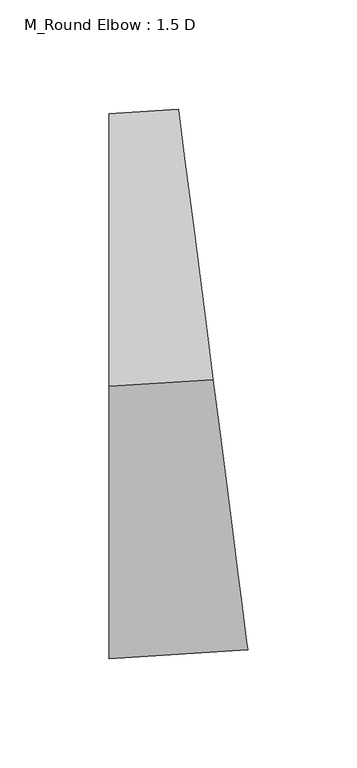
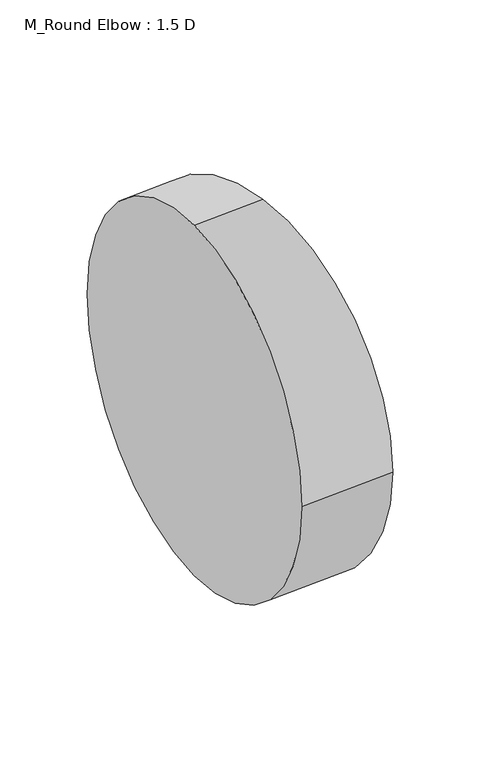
"""IFC4 building model written with IfcOpenShell, lengths in millimetres: duct fitting geometry, M_Round Elbow : 1.5 D."""

import ifcopenshell
import ifcopenshell.guid

model = None  # the IFC model being written
_history = None  # IfcOwnerHistory: only IFC2X3 demands one
_inside = {}  # id of a spatial element -> (the spatial element, [elements in it])
_under = {}  # id of a project, library or spatial element -> (it, [spatial elements below it])
_declared = {}  # id of a project -> (the project, [libraries it declares])
_typed = {}  # id of a type object -> (the type object, [elements of that type])
_made_of = {}  # id of a material, layer set ... -> (it, [elements and type objects made of it])


def new_model(schema):
    """Start an empty IFC model of exactly this schema.

    Asked for "IFC4X3", IfcOpenShell would pick the latest addendum, in which some entities
    have other attributes; the version numbers below select the first issue.
    IFC2X3 requires an IfcOwnerHistory on every rooted entity: one is made here for all.
    """
    global model, _history
    if schema == "IFC4X3":
        model = ifcopenshell.file(schema_version=(4, 3, 0, 0))
    else:
        model = ifcopenshell.file(schema=schema)
    _inside.clear()
    _under.clear()
    _declared.clear()
    _typed.clear()
    _made_of.clear()
    _history = None
    if model.schema == "IFC2X3":
        org = make("IfcOrganization", Name="unknown")
        user = make(
            "IfcPersonAndOrganization",
            ThePerson=make("IfcPerson", FamilyName="unknown"),
            TheOrganization=org,
        )
        app = make(
            "IfcApplication",
            ApplicationDeveloper=org,
            Version="unknown",
            ApplicationFullName="unknown",
            ApplicationIdentifier="unknown",
        )
        _history = make(
            "IfcOwnerHistory",
            OwningUser=user,
            OwningApplication=app,
            ChangeAction="ADDED",
            CreationDate=0,
        )
    return model


def make(cls, **values):
    """One entity of the class cls with the attributes given. An attribute that is None is left unset."""
    return model.create_entity(
        cls, **{name: value for name, value in values.items() if value is not None}
    )


def rooted(cls, **values):
    """An entity with a GlobalId (a new one), such as an element, a storey or a relation."""
    return make(cls, GlobalId=ifcopenshell.guid.new(), OwnerHistory=_history, **values)


def si_unit(unit_type, name, prefix=None):
    """IfcSIUnit, for example si_unit("LENGTHUNIT", "METRE", prefix="MILLI")."""
    return make("IfcSIUnit", UnitType=unit_type, Prefix=prefix, Name=name)


def assignment(units):
    """IfcUnitAssignment: the units of a project."""
    return None if units is None else make("IfcUnitAssignment", Units=units)


def point(xyz):
    """IfcCartesianPoint."""
    return None if xyz is None else make("IfcCartesianPoint", Coordinates=xyz)


def direction(xyz):
    """IfcDirection."""
    return None if xyz is None else make("IfcDirection", DirectionRatios=xyz)


def frame(location, z_axis=None, x_axis=None):
    """IfcAxis2Placement3D, a coordinate frame: its origin and axes. An axis left out is left unset."""
    return make(
        "IfcAxis2Placement3D",
        Location=point(location),
        Axis=direction(z_axis),
        RefDirection=direction(x_axis),
    )


def origin():
    """The frame at (0, 0, 0) with its axes left unset."""
    return frame((0.0, 0.0, 0.0))


def place(relative_to, where):
    """IfcLocalPlacement: puts the frame where relative to a parent placement (None: the world)."""
    return make(
        "IfcLocalPlacement", PlacementRelTo=relative_to, RelativePlacement=where
    )


def context(
    kind, dimensions, precision=None, world=None, true_north=None, identifier=None
):
    """IfcGeometricRepresentationContext, for example the 3D "Model" context."""
    return make(
        "IfcGeometricRepresentationContext",
        ContextIdentifier=identifier,
        ContextType=kind,
        CoordinateSpaceDimension=dimensions,
        Precision=precision,
        WorldCoordinateSystem=world,
        TrueNorth=true_north,
    )


def project(units=None, contexts=None):
    """IfcProject with its units and contexts."""
    return rooted(
        "IfcProject",
        Name="project",
        RepresentationContexts=contexts,
        UnitsInContext=assignment(units),
    )


def spatial(cls, under=None, at=None, **own):
    """A site, building, storey or space (cls), placed at a placement, below another one or the project."""
    s = rooted(cls, ObjectPlacement=at, **own)
    if under is not None:
        _under.setdefault(under.id(), (under, []))[1].append(s)
    return s


def circle_curve(where, radius):
    """IfcCircle in the frame where."""
    return make("IfcCircle", Position=where, Radius=radius)


def ellipse_curve(where, semi_axis1, semi_axis2):
    """IfcEllipse in the frame where."""
    return make(
        "IfcEllipse", Position=where, SemiAxis1=semi_axis1, SemiAxis2=semi_axis2
    )


def trimmed(basis, trim1, trim2, sense, master):
    """IfcTrimmedCurve: the piece of a basis curve between two trims."""
    return make(
        "IfcTrimmedCurve",
        BasisCurve=basis,
        Trim1=trim1,
        Trim2=trim2,
        SenseAgreement=sense,
        MasterRepresentation=master,
    )


def shape(context_of_items, identifier, shape_type, items):
    """IfcShapeRepresentation: the items that make up one representation, for example the "Body"."""
    return make(
        "IfcShapeRepresentation",
        ContextOfItems=context_of_items,
        RepresentationIdentifier=identifier,
        RepresentationType=shape_type,
        Items=items,
    )


def source(mapping_origin, context_of_items, identifier, shape_type, items):
    """IfcRepresentationMap: a shape defined once, which mapped items show again and again."""
    return make(
        "IfcRepresentationMap",
        MappingOrigin=mapping_origin,
        MappedRepresentation=shape(context_of_items, identifier, shape_type, items),
    )


def transform(
    local_origin,
    x_axis=None,
    y_axis=None,
    z_axis=None,
    scale=None,
    scale2=None,
    scale3=None,
    uniform=True,
):
    """IfcCartesianTransformationOperator3D, or its non-uniform kind. x_axis, y_axis, z_axis: its Axis1, 2, 3."""
    if uniform:
        return make(
            "IfcCartesianTransformationOperator3D",
            Axis1=direction(x_axis),
            Axis2=direction(y_axis),
            LocalOrigin=point(local_origin),
            Scale=scale,
            Axis3=direction(z_axis),
        )
    return make(
        "IfcCartesianTransformationOperator3DnonUniform",
        Axis1=direction(x_axis),
        Axis2=direction(y_axis),
        LocalOrigin=point(local_origin),
        Scale=scale,
        Axis3=direction(z_axis),
        Scale2=scale2,
        Scale3=scale3,
    )


def mapped(mapping_source, mapping_target):
    """IfcMappedItem: shows the shape of a source again, moved by a transform."""
    return make(
        "IfcMappedItem", MappingSource=mapping_source, MappingTarget=mapping_target
    )


def made_of(thing, what):
    """Note that an element or type object is made of a material, layer set ...; save() writes the relation."""
    if what is not None:
        _made_of.setdefault(what.id(), (what, []))[1].append(thing)
    return thing


def element(
    cls,
    number,
    at=None,
    inside=None,
    cuts=None,
    type_object=None,
    material=None,
    context=None,
    identifier="Body",
    shape_type=None,
    held_by="IfcProductDefinitionShape",
    body=None,
    shapes=None,
    **own,
):
    """One element of the class cls, such as IfcWall. Its Tag is "e" and its number.

    at: its placement. inside: the storey or other place that contains it. cuts: it is an
    opening in that element (IfcRelVoidsElement). A single representation is given by context,
    identifier, shape_type and body (its items); several are given by shapes. held_by: the class
    of the entity that holds the representations. save() writes the other relations.
    """
    e = rooted(cls, Tag="e%d" % number, ObjectPlacement=at, **own)
    if body is not None:
        shapes = [shape(context, identifier, shape_type, body)]
    if shapes is not None:
        e.Representation = make(held_by, Representations=shapes)
    if inside is not None:
        _inside.setdefault(inside.id(), (inside, []))[1].append(e)
    if cuts is not None:
        rooted(
            "IfcRelVoidsElement", RelatingBuildingElement=cuts, RelatedOpeningElement=e
        )
    if type_object is not None:
        _typed.setdefault(type_object.id(), (type_object, []))[1].append(e)
    return made_of(e, material)


def aggregate(whole, parts):
    """IfcRelAggregates: a whole, such as a stair, and the parts it consists of."""
    return rooted("IfcRelAggregates", RelatingObject=whole, RelatedObjects=parts)


def save(model, path):
    """Write the relations noted so far, then the file.

    IfcRelAggregates (storeys below a building ...), IfcRelContainedInSpatialStructure (elements
    in a storey), IfcRelDefinesByType, IfcRelAssociatesMaterial and IfcRelDeclares: one each for
    every whole, place, type object, material and project.
    """
    for whole, parts in _under.values():
        aggregate(whole, parts)
    for where, things in _inside.values():
        rooted(
            "IfcRelContainedInSpatialStructure",
            RelatedElements=things,
            RelatingStructure=where,
        )
    for kind, things in _typed.values():
        rooted("IfcRelDefinesByType", RelatedObjects=things, RelatingType=kind)
    for what, things in _made_of.values():
        rooted("IfcRelAssociatesMaterial", RelatedObjects=things, RelatingMaterial=what)
    for by, libraries in _declared.values():
        rooted("IfcRelDeclares", RelatingContext=by, RelatedDefinitions=libraries)
    model.write(path)


def plane_surface(at):
    """IfcPlane: the flat surface through the origin of the frame at, square to its z axis."""
    return make("IfcPlane", Position=at)


def revolved_surface(curve, axis_point, axis_direction):
    """IfcSurfaceOfRevolution: the curve turned about the line through axis_point along axis_direction."""
    return make(
        "IfcSurfaceOfRevolution",
        SweptCurve=make("IfcArbitraryOpenProfileDef", ProfileType="CURVE", Curve=curve),
        AxisPosition=make("IfcAxis1Placement", Location=point(axis_point), Axis=direction(axis_direction)),
    )


def advanced_brep(points, edges, surfaces, faces):
    """IfcAdvancedBrep: a solid bounded by faces that lie on surfaces and meet in shared edges.

    An edge is (start, end): straight between two places in points (the first is 0);
    or (start, end, curve); or (start, end, curve, False) where it runs against its curve.
    A face is (place in surfaces, loops), or (place, loops, False) where it looks against
    its surface's normal. A loop lists edges by number (the first is 1), with a minus sign
    where the edge is run from its end to its start. The first loop is the outer one.
    """
    corners = [point(p) for p in points]
    vertices = [make("IfcVertexPoint", VertexGeometry=c) for c in corners]
    made = []
    for start, end, *more in edges:
        made.append(
            make(
                "IfcEdgeCurve",
                EdgeStart=vertices[start],
                EdgeEnd=vertices[end],
                EdgeGeometry=more[0] if more else make("IfcPolyline", Points=[corners[start], corners[end]]),
                SameSense=more[1] if len(more) > 1 else True,
            )
        )
    hull = []
    for where, loops, *sense in faces:
        bounds = []
        for j, loop in enumerate(loops):
            ring = [make("IfcOrientedEdge", EdgeElement=made[abs(k) - 1], Orientation=k > 0) for k in loop]
            bounds.append(
                make(
                    "IfcFaceOuterBound" if j == 0 else "IfcFaceBound",
                    Bound=make("IfcEdgeLoop", EdgeList=ring),
                    Orientation=True,
                )
            )
        hull.append(make("IfcAdvancedFace", Bounds=bounds, FaceSurface=surfaces[where], SameSense=sense[0] if sense else True))
    return make("IfcAdvancedBrep", Outer=make("IfcClosedShell", CfsFaces=hull))


def m_round_elbow_1_5_d_30a58f77(model_context):
    return source(origin(), model_context, "Body", "AdvancedBrep", [
        advanced_brep(
        [(-24.0055954, 0.0, 125.0), (-24.0055954, 125.0, 0.0), (-24.0055954, 0.0, -125.0), (-24.0055954, -125.0, 0.0), (23.8096528, 3.0608893, 125.0), (39.7480689, -120.9188142, 0.0), (23.8096528, 3.0608893, -125.0), (7.8712367, 127.0405929, 0.0)],
        [
            (0, 1, circle_curve(frame((-24.0055954, 0.0, 0.0), z_axis=(-1.0, 0.0, 0.0), x_axis=(0.0, 1.0, 0.0)), 125.0)),
            (1, 2, circle_curve(frame((-24.0055954, 0.0, 0.0), z_axis=(-1.0, 0.0, 0.0), x_axis=(0.0, 1.0, 0.0)), 125.0)),
            (2, 3, circle_curve(frame((-24.0055954, 0.0, 0.0), z_axis=(-1.0, 0.0, 0.0), x_axis=(0.0, 1.0, 0.0)), 125.0)),
            (3, 0, circle_curve(frame((-24.0055954, 0.0, 0.0), z_axis=(-1.0, 0.0, 0.0), x_axis=(0.0, 1.0, 0.0)), 125.0)),
            (4, 5, circle_curve(frame((23.8096528, 3.0608893, 0.0), z_axis=(0.9918376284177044, 0.1275073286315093, 0.0), x_axis=(-0.1275073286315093, 0.9918376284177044, 0.0)), 125.0)),
            (5, 6, circle_curve(frame((23.8096528, 3.0608893, 0.0), z_axis=(0.9918376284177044, 0.1275073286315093, 0.0), x_axis=(-0.1275073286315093, 0.9918376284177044, 0.0)), 125.0)),
            (6, 7, circle_curve(frame((23.8096528, 3.0608893, 0.0), z_axis=(0.9918376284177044, 0.1275073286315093, 0.0), x_axis=(-0.1275073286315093, 0.9918376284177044, 0.0)), 125.0)),
            (7, 4, circle_curve(frame((23.8096528, 3.0608893, 0.0), z_axis=(0.9918376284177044, 0.1275073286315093, 0.0), x_axis=(-0.1275073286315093, 0.9918376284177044, 0.0)), 125.0)),
            (7, 1, circle_curve(frame((-24.0055954, 375.0, 0.0), z_axis=(0.0, 0.0, -1.0), x_axis=(0.0, -1.0, 0.0)), 250.0)),
            (0, 4, circle_curve(frame((-24.0055954, 375.0, 125.0), z_axis=(0.0, 0.0, 1.0), x_axis=(0.0, -1.0, 0.0)), 375.0)),
            (6, 2, circle_curve(frame((-24.0055954, 375.0, -125.0), z_axis=(0.0, 0.0, -1.0), x_axis=(0.0, -1.0, 0.0)), 375.0)),
            (5, 3, circle_curve(frame((-24.0055954, 375.0, 0.0), z_axis=(0.0, 0.0, -1.0), x_axis=(0.0, -1.0, 0.0)), 500.0)),
        ],
        [
            plane_surface(frame((-24.0055954, 0.0, 0.0), z_axis=(-1.0, 0.0, 0.0), x_axis=(0.0, 0.0, 1.0))),
            plane_surface(frame((23.8096528, 3.0608893, 0.0), z_axis=(0.9918376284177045, 0.12750732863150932, 0.0), x_axis=(0.0, 0.0, 1.0))),
            revolved_surface(trimmed(ellipse_curve(frame((-24.0055954, 0.0, 0.0), z_axis=(-1.0, 0.0, 0.0), x_axis=(0.0, 1.0, 0.0)), 125.0, 125.0), [point((-24.0055954, 0.0, 125.0))], [point((-24.0055954, 125.0, 0.0))], True, "CARTESIAN"), (-24.0055954, 375.0, 0.0), (0.0, 0.0, 1.0)),
            revolved_surface(trimmed(ellipse_curve(frame((-24.0055954, 0.0, 0.0), z_axis=(-1.0, 0.0, 0.0), x_axis=(0.0, 1.0, 0.0)), 125.0, 125.0), [point((-24.0055954, 125.0, 0.0))], [point((-24.0055954, 0.0, -125.0))], True, "CARTESIAN"), (-24.0055954, 375.0, 0.0), (0.0, 0.0, 1.0)),
            revolved_surface(trimmed(ellipse_curve(frame((-24.0055954, 0.0, 0.0), z_axis=(-1.0, 0.0, 0.0), x_axis=(0.0, 1.0, 0.0)), 125.0, 125.0), [point((-24.0055954, 0.0, -125.0))], [point((-24.0055954, -125.0, 0.0))], True, "CARTESIAN"), (-24.0055954, 375.0, 0.0), (0.0, 0.0, 1.0)),
            revolved_surface(trimmed(ellipse_curve(frame((-24.0055954, 0.0, 0.0), z_axis=(-1.0, 0.0, 0.0), x_axis=(0.0, 1.0, 0.0)), 125.0, 125.0), [point((-24.0055954, -125.0, 0.0))], [point((-24.0055954, 0.0, 125.0))], True, "CARTESIAN"), (-24.0055954, 375.0, 0.0), (0.0, 0.0, 1.0)),
        ],
        [
            (0, [[1, 2, 3, 4]]),
            (1, [[5, 6, 7, 8]]),
            (2, [[9, -1, 10, -8]]),
            (3, [[11, -2, -9, -7]]),
            (4, [[12, -3, -11, -6]]),
            (5, [[-10, -4, -12, -5]]),
        ],
    ),
        advanced_brep(
        [(-24.0055954, 0.0, 125.0), (-24.0055954, 125.0, 0.0), (-24.0055954, 0.0, -125.0), (-24.0055954, -125.0, 0.0), (23.8096528, 3.0608893, 125.0), (39.7480689, -120.9188142, 0.0), (23.8096528, 3.0608893, -125.0), (7.8712367, 127.0405929, 0.0)],
        [
            (0, 1, circle_curve(frame((-24.0055954, 0.0, 0.0), z_axis=(-1.0, 0.0, 0.0), x_axis=(0.0, 1.0, 0.0)), 125.0)),
            (1, 2, circle_curve(frame((-24.0055954, 0.0, 0.0), z_axis=(-1.0, 0.0, 0.0), x_axis=(0.0, 1.0, 0.0)), 125.0)),
            (2, 3, circle_curve(frame((-24.0055954, 0.0, 0.0), z_axis=(-1.0, 0.0, 0.0), x_axis=(0.0, 1.0, 0.0)), 125.0)),
            (3, 0, circle_curve(frame((-24.0055954, 0.0, 0.0), z_axis=(-1.0, 0.0, 0.0), x_axis=(0.0, 1.0, 0.0)), 125.0)),
            (4, 5, circle_curve(frame((23.8096528, 3.0608893, 0.0), z_axis=(0.9918376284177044, 0.1275073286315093, 0.0), x_axis=(-0.1275073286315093, 0.9918376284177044, 0.0)), 125.0)),
            (5, 6, circle_curve(frame((23.8096528, 3.0608893, 0.0), z_axis=(0.9918376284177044, 0.1275073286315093, 0.0), x_axis=(-0.1275073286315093, 0.9918376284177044, 0.0)), 125.0)),
            (6, 7, circle_curve(frame((23.8096528, 3.0608893, 0.0), z_axis=(0.9918376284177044, 0.1275073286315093, 0.0), x_axis=(-0.1275073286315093, 0.9918376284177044, 0.0)), 125.0)),
            (7, 4, circle_curve(frame((23.8096528, 3.0608893, 0.0), z_axis=(0.9918376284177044, 0.1275073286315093, 0.0), x_axis=(-0.1275073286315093, 0.9918376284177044, 0.0)), 125.0)),
            (7, 1, circle_curve(frame((-24.0055954, 375.0, 0.0), z_axis=(0.0, 0.0, -1.0), x_axis=(0.0, -1.0, 0.0)), 250.0)),
            (0, 4, circle_curve(frame((-24.0055954, 375.0, 125.0), z_axis=(0.0, 0.0, 1.0), x_axis=(0.0, -1.0, 0.0)), 375.0)),
            (6, 2, circle_curve(frame((-24.0055954, 375.0, -125.0), z_axis=(0.0, 0.0, -1.0), x_axis=(0.0, -1.0, 0.0)), 375.0)),
            (5, 3, circle_curve(frame((-24.0055954, 375.0, 0.0), z_axis=(0.0, 0.0, -1.0), x_axis=(0.0, -1.0, 0.0)), 500.0)),
        ],
        [
            plane_surface(frame((-24.0055954, 0.0, 0.0), z_axis=(-1.0, 0.0, 0.0), x_axis=(0.0, 0.0, 1.0))),
            plane_surface(frame((23.8096528, 3.0608893, 0.0), z_axis=(0.9918376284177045, 0.12750732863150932, 0.0), x_axis=(0.0, 0.0, 1.0))),
            revolved_surface(trimmed(ellipse_curve(frame((-24.0055954, 0.0, 0.0), z_axis=(-1.0, 0.0, 0.0), x_axis=(0.0, 1.0, 0.0)), 125.0, 125.0), [point((-24.0055954, 0.0, 125.0))], [point((-24.0055954, 125.0, 0.0))], True, "CARTESIAN"), (-24.0055954, 375.0, 0.0), (0.0, 0.0, 1.0)),
            revolved_surface(trimmed(ellipse_curve(frame((-24.0055954, 0.0, 0.0), z_axis=(-1.0, 0.0, 0.0), x_axis=(0.0, 1.0, 0.0)), 125.0, 125.0), [point((-24.0055954, 125.0, 0.0))], [point((-24.0055954, 0.0, -125.0))], True, "CARTESIAN"), (-24.0055954, 375.0, 0.0), (0.0, 0.0, 1.0)),
            revolved_surface(trimmed(ellipse_curve(frame((-24.0055954, 0.0, 0.0), z_axis=(-1.0, 0.0, 0.0), x_axis=(0.0, 1.0, 0.0)), 125.0, 125.0), [point((-24.0055954, 0.0, -125.0))], [point((-24.0055954, -125.0, 0.0))], True, "CARTESIAN"), (-24.0055954, 375.0, 0.0), (0.0, 0.0, 1.0)),
            revolved_surface(trimmed(ellipse_curve(frame((-24.0055954, 0.0, 0.0), z_axis=(-1.0, 0.0, 0.0), x_axis=(0.0, 1.0, 0.0)), 125.0, 125.0), [point((-24.0055954, -125.0, 0.0))], [point((-24.0055954, 0.0, 125.0))], True, "CARTESIAN"), (-24.0055954, 375.0, 0.0), (0.0, 0.0, 1.0)),
        ],
        [
            (0, [[1, 2, 3, 4]]),
            (1, [[5, 6, 7, 8]]),
            (2, [[9, -1, 10, -8]]),
            (3, [[11, -2, -9, -7]]),
            (4, [[12, -3, -11, -6]]),
            (5, [[-10, -4, -12, -5]]),
        ],
    ),
        advanced_brep(
        [(-24.0055954, 0.0, 125.0), (-24.0055954, 125.0, 0.0), (-24.0055954, 0.0, -125.0), (-24.0055954, -125.0, 0.0), (23.8096528, 3.0608893, 125.0), (39.7480689, -120.9188142, 0.0), (23.8096528, 3.0608893, -125.0), (7.8712367, 127.0405929, 0.0)],
        [
            (0, 1, circle_curve(frame((-24.0055954, 0.0, 0.0), z_axis=(-1.0, 0.0, 0.0), x_axis=(0.0, 1.0, 0.0)), 125.0)),
            (1, 2, circle_curve(frame((-24.0055954, 0.0, 0.0), z_axis=(-1.0, 0.0, 0.0), x_axis=(0.0, 1.0, 0.0)), 125.0)),
            (2, 3, circle_curve(frame((-24.0055954, 0.0, 0.0), z_axis=(-1.0, 0.0, 0.0), x_axis=(0.0, 1.0, 0.0)), 125.0)),
            (3, 0, circle_curve(frame((-24.0055954, 0.0, 0.0), z_axis=(-1.0, 0.0, 0.0), x_axis=(0.0, 1.0, 0.0)), 125.0)),
            (4, 5, circle_curve(frame((23.8096528, 3.0608893, 0.0), z_axis=(0.9918376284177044, 0.1275073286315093, 0.0), x_axis=(-0.1275073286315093, 0.9918376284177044, 0.0)), 125.0)),
            (5, 6, circle_curve(frame((23.8096528, 3.0608893, 0.0), z_axis=(0.9918376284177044, 0.1275073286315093, 0.0), x_axis=(-0.1275073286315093, 0.9918376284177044, 0.0)), 125.0)),
            (6, 7, circle_curve(frame((23.8096528, 3.0608893, 0.0), z_axis=(0.9918376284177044, 0.1275073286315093, 0.0), x_axis=(-0.1275073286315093, 0.9918376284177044, 0.0)), 125.0)),
            (7, 4, circle_curve(frame((23.8096528, 3.0608893, 0.0), z_axis=(0.9918376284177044, 0.1275073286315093, 0.0), x_axis=(-0.1275073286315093, 0.9918376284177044, 0.0)), 125.0)),
            (7, 1, circle_curve(frame((-24.0055954, 375.0, 0.0), z_axis=(0.0, 0.0, -1.0), x_axis=(0.0, -1.0, 0.0)), 250.0)),
            (0, 4, circle_curve(frame((-24.0055954, 375.0, 125.0), z_axis=(0.0, 0.0, 1.0), x_axis=(0.0, -1.0, 0.0)), 375.0)),
            (6, 2, circle_curve(frame((-24.0055954, 375.0, -125.0), z_axis=(0.0, 0.0, -1.0), x_axis=(0.0, -1.0, 0.0)), 375.0)),
            (5, 3, circle_curve(frame((-24.0055954, 375.0, 0.0), z_axis=(0.0, 0.0, -1.0), x_axis=(0.0, -1.0, 0.0)), 500.0)),
        ],
        [
            plane_surface(frame((-24.0055954, 0.0, 0.0), z_axis=(-1.0, 0.0, 0.0), x_axis=(0.0, 0.0, 1.0))),
            plane_surface(frame((23.8096528, 3.0608893, 0.0), z_axis=(0.9918376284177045, 0.12750732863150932, 0.0), x_axis=(0.0, 0.0, 1.0))),
            revolved_surface(trimmed(ellipse_curve(frame((-24.0055954, 0.0, 0.0), z_axis=(-1.0, 0.0, 0.0), x_axis=(0.0, 1.0, 0.0)), 125.0, 125.0), [point((-24.0055954, 0.0, 125.0))], [point((-24.0055954, 125.0, 0.0))], True, "CARTESIAN"), (-24.0055954, 375.0, 0.0), (0.0, 0.0, 1.0)),
            revolved_surface(trimmed(ellipse_curve(frame((-24.0055954, 0.0, 0.0), z_axis=(-1.0, 0.0, 0.0), x_axis=(0.0, 1.0, 0.0)), 125.0, 125.0), [point((-24.0055954, 125.0, 0.0))], [point((-24.0055954, 0.0, -125.0))], True, "CARTESIAN"), (-24.0055954, 375.0, 0.0), (0.0, 0.0, 1.0)),
            revolved_surface(trimmed(ellipse_curve(frame((-24.0055954, 0.0, 0.0), z_axis=(-1.0, 0.0, 0.0), x_axis=(0.0, 1.0, 0.0)), 125.0, 125.0), [point((-24.0055954, 0.0, -125.0))], [point((-24.0055954, -125.0, 0.0))], True, "CARTESIAN"), (-24.0055954, 375.0, 0.0), (0.0, 0.0, 1.0)),
            revolved_surface(trimmed(ellipse_curve(frame((-24.0055954, 0.0, 0.0), z_axis=(-1.0, 0.0, 0.0), x_axis=(0.0, 1.0, 0.0)), 125.0, 125.0), [point((-24.0055954, -125.0, 0.0))], [point((-24.0055954, 0.0, 125.0))], True, "CARTESIAN"), (-24.0055954, 375.0, 0.0), (0.0, 0.0, 1.0)),
        ],
        [
            (0, [[1, 2, 3, 4]]),
            (1, [[5, 6, 7, 8]]),
            (2, [[9, -1, 10, -8]]),
            (3, [[11, -2, -9, -7]]),
            (4, [[12, -3, -11, -6]]),
            (5, [[-10, -4, -12, -5]]),
        ],
    ),
    ])


if __name__ == "__main__":
    model = new_model("IFC4")
    model_context = context("Model", 3, world=origin())
    ifc_project = project(units=[si_unit("LENGTHUNIT", "METRE", prefix="MILLI")], contexts=[model_context])
    site = spatial("IfcSite", under=ifc_project)
    building = spatial("IfcBuilding", under=site)
    placement = place(None, origin())
    m_round_elbow_1_5_d_shape = m_round_elbow_1_5_d_30a58f77(model_context)
    element("IfcDuctFitting", 1, ObjectType="M_Round Elbow : 1.5 D", at=placement, inside=building, context=model_context, shape_type="MappedRepresentation", body=[
        mapped(m_round_elbow_1_5_d_shape, transform((0.0, 0.0, 0.0), x_axis=(1.0, 0.0, 0.0), y_axis=(0.0, 1.0, 0.0), z_axis=(0.0, 0.0, 1.0))),
    ])
    save(model, "model.ifc")
